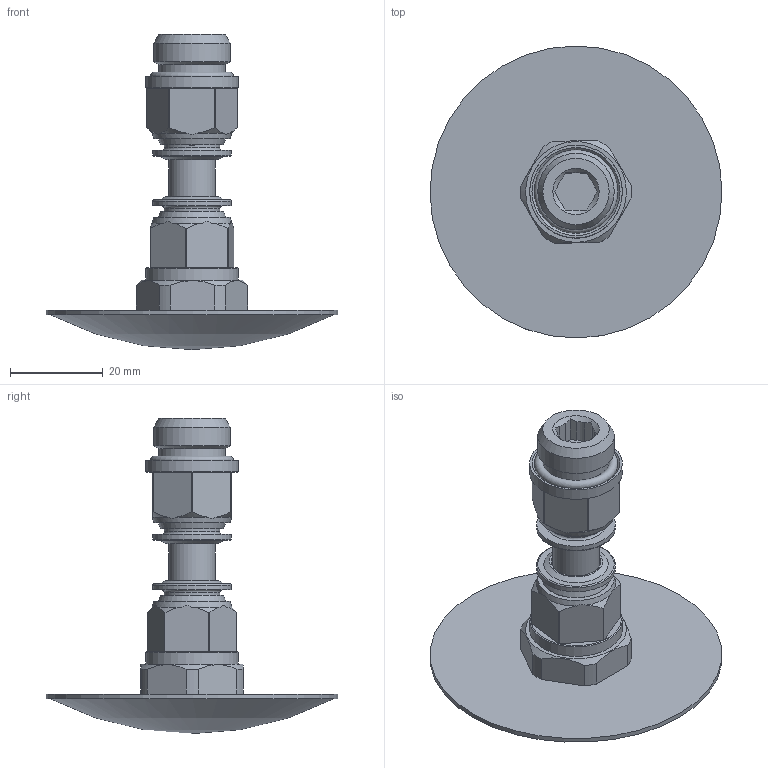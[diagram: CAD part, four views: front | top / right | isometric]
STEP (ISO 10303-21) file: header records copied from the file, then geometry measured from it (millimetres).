
FILE_DESCRIPTION(/* description */ ('Unknown'),/* implementation_level */ '2;1');
FILE_NAME(/* name */ 'ASM kit Aspirazione',/* time_stamp */ '2024-11-28T10:34:41+01:00',/* author */ ('Unknown'),/* organization */ ('Unknown'),/* preprocessor_version */ 'ST-DEVELOPER v19.4',/* originating_system */ 'Solid Edge',/* authorisation */ 'Unknown');
FILE_SCHEMA (('AUTOMOTIVE_DESIGN {1 0 10303 214 3 1 1}'));
Length unit declared in the file: millimetre
Products named in the file (1): ASM kit Aspirazione
Bounding box: 63 x 63 x 68 mm (x, y, z)
Volume: 27431.3 mm3; surface area: 11508.2 mm2
Topology: 1 solids, 1 shells, 149 faces, 394 edges, 259 vertices
Faces by surface type: plane 72, cylinder 38, cone 31, torus 7, sphere 1
Full cylindrical faces by diameter (mm): 10 x1, 10.2 x2, 12 x2, 12.1 x2, 14.4 x1, 16.5 x1, 17 x2, 20 x2, 63 x1
Entity records: 4416 total; most frequent: CARTESIAN_POINT 986, DIRECTION 696, ORIENTED_EDGE 668, EDGE_CURVE 334, AXIS2_PLACEMENT_3D 290, VERTEX_POINT 240, EDGE_LOOP 210, FACE_BOUND 210
